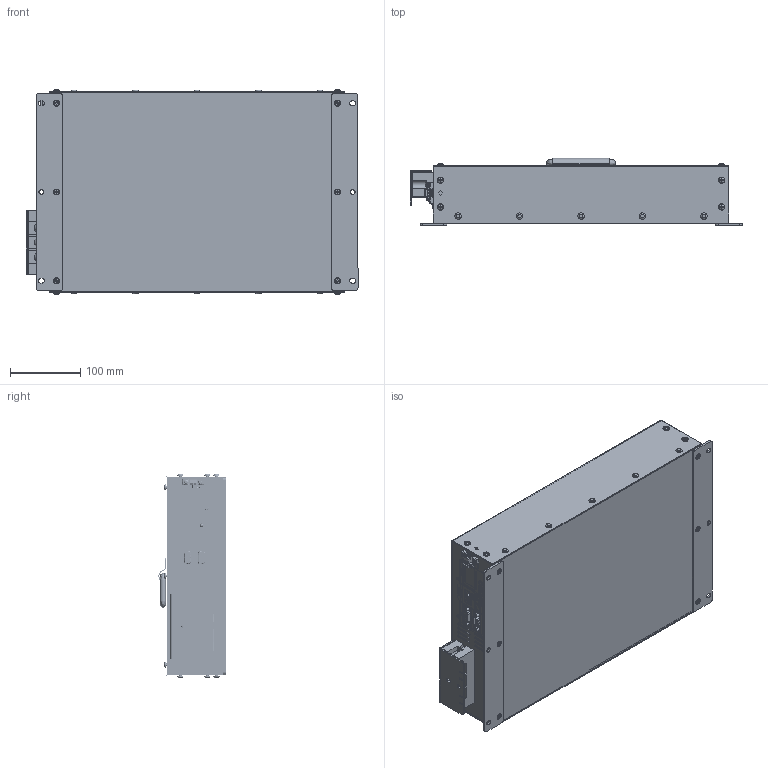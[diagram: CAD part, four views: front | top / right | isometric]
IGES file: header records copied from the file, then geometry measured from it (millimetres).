
Global section: file name: [OLED]VW2COM_HANDLES2S_단순화_2; native system: Autodesk Inventor 2026; preprocessor: unknown; author: eunsol jang; date: 20260527.090822; units: millimetre
Bounding box: 471.22 x 95.2 x 290.84 mm (x, y, z)
Volume: 719603.5 mm3; surface area: 926642.5 mm2
Topology: 135 solids, 137 shells, 6011 faces, 16149 edges, 10771 vertices
Faces by surface type: bspline 6011
